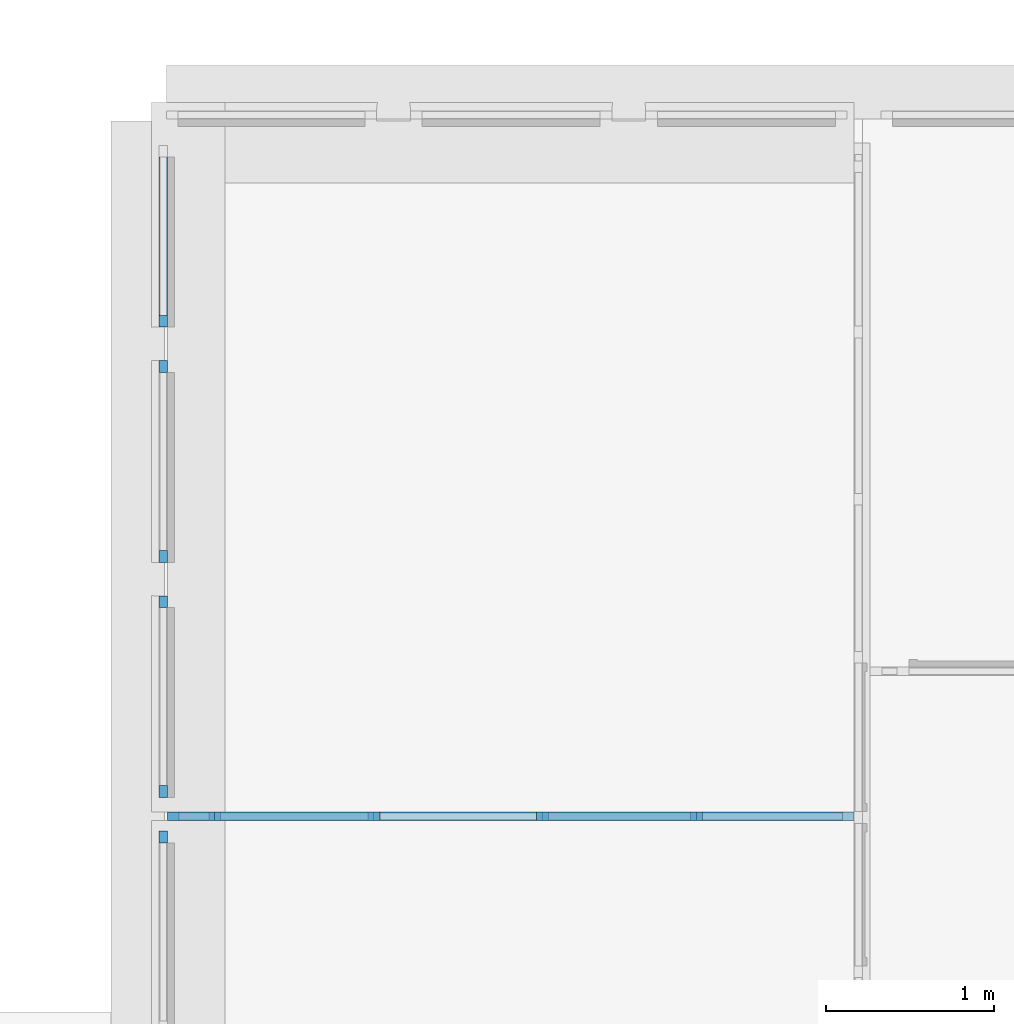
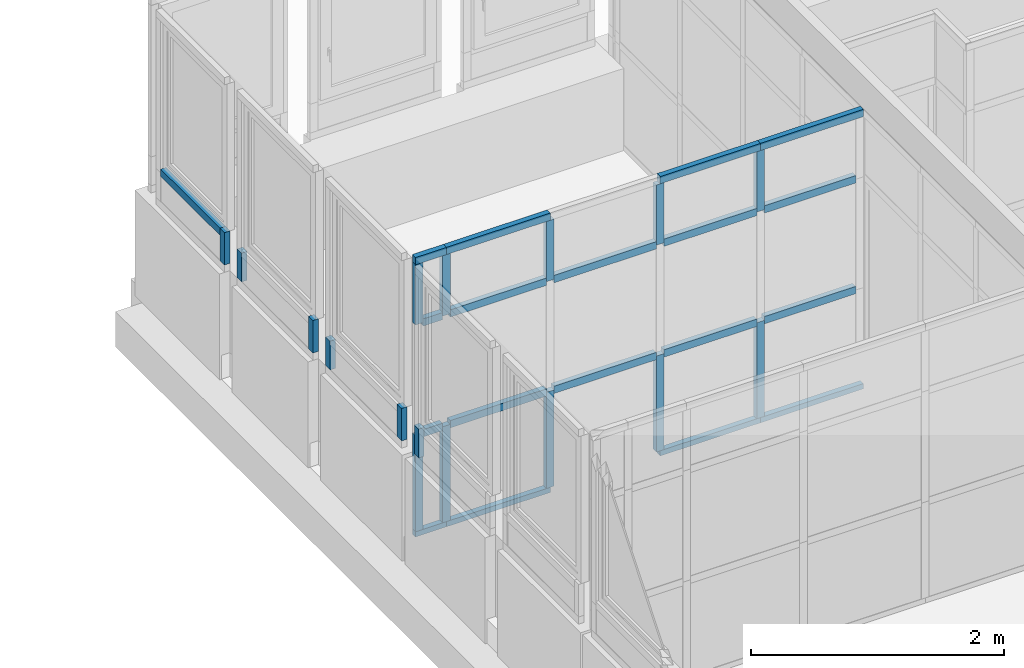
# One storey, part 20 of 97: 35 members, 5 elements without a shape of their own.
"""IFC4 building model written with IfcOpenShell, lengths in metres."""

from ifc_helpers import new_model, entity, si_unit, converted_unit, derived_unit, direction, frame, origin, place, context, subcontext, project, spatial, indexed_curve, outline, extrude, source, transform, mapped, material, type_object, type_shapes, element, aggregate, save


model = new_model("IFC4")

# Units and contexts
model_context = context("Model", 3, precision=1e-05, world=origin(), true_north=direction((6.12303176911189e-17, 1.0)))
body_context = subcontext(model_context, "Body", "Model", "MODEL_VIEW")
ifc_project = project(units=[si_unit("LENGTHUNIT", "METRE"), si_unit("AREAUNIT", "SQUARE_METRE"), si_unit("VOLUMEUNIT", "CUBIC_METRE"), converted_unit("PLANEANGLEUNIT", "DEGREE", entity("IfcRatioMeasure", 0.0174532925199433), si_unit("PLANEANGLEUNIT", "RADIAN"), dimensions=[0, 0, 0, 0, 0, 0, 0]), si_unit("MASSUNIT", "GRAM", prefix="KILO"), derived_unit("MASSDENSITYUNIT", [(si_unit("MASSUNIT", "GRAM", prefix="KILO"), 1), (si_unit("LENGTHUNIT", "METRE"), -3)]), derived_unit("MOMENTOFINERTIAUNIT", [(si_unit("LENGTHUNIT", "METRE"), 4)]), si_unit("TIMEUNIT", "SECOND"), si_unit("FREQUENCYUNIT", "HERTZ"), si_unit("THERMODYNAMICTEMPERATUREUNIT", "DEGREE_CELSIUS"), derived_unit("THERMALTRANSMITTANCEUNIT", [(si_unit("MASSUNIT", "GRAM", prefix="KILO"), 1), (si_unit("THERMODYNAMICTEMPERATUREUNIT", "KELVIN"), -1), (si_unit("TIMEUNIT", "SECOND"), -3)]), derived_unit("VOLUMETRICFLOWRATEUNIT", [(si_unit("LENGTHUNIT", "METRE"), 3), (si_unit("TIMEUNIT", "SECOND"), -1)]), si_unit("ELECTRICCURRENTUNIT", "AMPERE"), si_unit("ELECTRICVOLTAGEUNIT", "VOLT"), si_unit("POWERUNIT", "WATT"), si_unit("FORCEUNIT", "NEWTON", prefix="KILO"), si_unit("ILLUMINANCEUNIT", "LUX"), si_unit("LUMINOUSFLUXUNIT", "LUMEN"), si_unit("LUMINOUSINTENSITYUNIT", "CANDELA"), derived_unit("USERDEFINED", [(si_unit("MASSUNIT", "GRAM", prefix="KILO"), -1), (si_unit("LENGTHUNIT", "METRE"), -2), (si_unit("TIMEUNIT", "SECOND"), 3), (si_unit("LUMINOUSFLUXUNIT", "LUMEN"), 1)]), derived_unit("LINEARVELOCITYUNIT", [(si_unit("LENGTHUNIT", "METRE"), 1), (si_unit("TIMEUNIT", "SECOND"), -1)]), si_unit("PRESSUREUNIT", "PASCAL"), derived_unit("USERDEFINED", [(si_unit("LENGTHUNIT", "METRE"), -2), (si_unit("MASSUNIT", "GRAM", prefix="KILO"), 1), (si_unit("TIMEUNIT", "SECOND"), -2)]), derived_unit("LINEARFORCEUNIT", [(si_unit("MASSUNIT", "GRAM", prefix="KILO"), 1), (si_unit("LENGTHUNIT", "METRE"), 1), (si_unit("TIMEUNIT", "SECOND"), -2), (si_unit("LENGTHUNIT", "METRE"), -1)]), derived_unit("PLANARFORCEUNIT", [(si_unit("MASSUNIT", "GRAM", prefix="KILO"), 1), (si_unit("LENGTHUNIT", "METRE"), 1), (si_unit("TIMEUNIT", "SECOND"), -2), (si_unit("LENGTHUNIT", "METRE"), -2)])], contexts=[model_context])

# Site, building, storey
site_placement = place(None, origin())
site = spatial("IfcSite", under=ifc_project, at=site_placement, Name="Default", CompositionType="ELEMENT")
building_placement = place(site_placement, origin())
building = spatial("IfcBuilding", under=site, at=building_placement, Name="HOTEL CONSULAIRE BOULOGNE SUR MER", CompositionType="ELEMENT")
storey_placement = place(building_placement, frame((0.0, 0.0, 3.62152697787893)))
storey = spatial("IfcBuildingStorey", under=building, at=storey_placement, Name="Niveau 1", CompositionType="ELEMENT", Elevation=3.62152697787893)

# Curtain wall, member
curtain_wall_type = type_object("IfcCurtainWallType", Name="Mur-rideau:Simple panneau", PredefinedType="NOTDEFINED")
curtain_wall_1_placement = place(storey_placement, frame((0.0, 0.0, -3.62152697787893)))
curtain_wall_1 = element("IfcCurtainWall", 1, at=curtain_wall_1_placement, inside=storey, type_object=curtain_wall_type, Name="Mur-rideau:Simple panneau", ObjectType="Mur-rideau:Simple panneau", PredefinedType="NOTDEFINED")
ifc_material_1 = material(Name="PVC - Blanc", Category="Plastique")
member_type_1 = type_object("IfcMemberType", Name="Meneau rectangulaire:50 x 35", PredefinedType="MULLION", material=ifc_material_1)
shared_shape_1 = source(origin(), body_context, "Body", "SweptSolid", [
    extrude(outline(indexed_curve([(-0.025, -0.035), (0.025, -0.035), (0.025, 0.035), (-0.025, 0.035), (-0.025, -0.035)], self_intersect=False)), frame((-0.035, -0.025, -0.278), z_axis=(0.0, 0.0, 1.0), x_axis=(0.0, -1.0, 0.0)), (0.0, 0.0, 1.0), 0.278),
])
type_shapes(member_type_1, [shared_shape_1])
member_1_placement = place(storey_placement, frame((-13.7870998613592, -14.3114499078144, 0.861612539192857), z_axis=(0.0, 0.0, -1.0), x_axis=(0.0, 1.0, 0.0)))
member_1 = element("IfcMember", 2, at=member_1_placement, type_object=member_type_1, material=ifc_material_1, Name="Meneau rectangulaire:50 x 35", ObjectType="Meneau rectangulaire:50 x 35", PredefinedType="MULLION", context=body_context, shape_type="MappedRepresentation", body=[
    mapped(shared_shape_1, transform((0.0, 0.0, 0.0), scale=1.0)),
])
aggregate(curtain_wall_1, [member_1])

curtain_wall_2_placement = place(storey_placement, frame((0.0, 0.0, -3.62152697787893)))
curtain_wall_2 = element("IfcCurtainWall", 3, at=curtain_wall_2_placement, inside=storey, type_object=curtain_wall_type, Name="Mur-rideau:Simple panneau", ObjectType="Mur-rideau:Simple panneau", PredefinedType="NOTDEFINED")
member_2_placement = place(storey_placement, frame((-13.7870998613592, -12.9114499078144, 0.861612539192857), z_axis=(0.0, 0.0, -1.0), x_axis=(0.0, 1.0, 0.0)))
member_2 = element("IfcMember", 4, at=member_2_placement, type_object=member_type_1, material=ifc_material_1, Name="Meneau rectangulaire:50 x 35", ObjectType="Meneau rectangulaire:50 x 35", PredefinedType="MULLION", context=body_context, shape_type="MappedRepresentation", body=[
    mapped(shared_shape_1, transform((0.0, 0.0, 0.0), scale=1.0)),
])

curtain_wall_3_placement = place(storey_placement, frame((0.0, 0.0, -3.62152697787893)))
curtain_wall_3 = element("IfcCurtainWall", 5, at=curtain_wall_3_placement, inside=storey, type_object=curtain_wall_type, Name="Mur-rideau:Simple panneau", ObjectType="Mur-rideau:Simple panneau", PredefinedType="NOTDEFINED")
member_3_placement = place(storey_placement, frame((-13.7870998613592, -11.5114499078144, 0.861612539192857), z_axis=(0.0, 0.0, -1.0), x_axis=(0.0, 1.0, 0.0)))
member_3 = element("IfcMember", 6, at=member_3_placement, type_object=member_type_1, material=ifc_material_1, Name="Meneau rectangulaire:50 x 35", ObjectType="Meneau rectangulaire:50 x 35", PredefinedType="MULLION", context=body_context, shape_type="MappedRepresentation", body=[
    mapped(shared_shape_1, transform((0.0, 0.0, 0.0), scale=1.0)),
])

# Member
member_type_2 = type_object("IfcMemberType", Name="Meneau rectangulaire:50 x 35", PredefinedType="MULLION", material=ifc_material_1)
shared_shape_2 = source(origin(), body_context, "Body", "SweptSolid", [
    extrude(outline(indexed_curve([(-0.025, -0.035), (0.025, -0.035), (0.025, 0.035), (-0.025, 0.035), (-0.025, -0.035)], self_intersect=False)), frame((-0.035, -0.025, -0.313), z_axis=(0.0, 0.0, 1.0), x_axis=(0.0, -1.0, 0.0)), (0.0, 0.0, 1.0), 0.313),
])
type_shapes(member_type_2, [shared_shape_2])
member_4_placement = place(storey_placement, frame((-13.7870998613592, -14.1114499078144, 1.17461253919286), z_axis=(0.0, 0.0, 1.0), x_axis=(0.0, -1.0, 0.0)))
member_4 = element("IfcMember", 7, at=member_4_placement, type_object=member_type_2, material=ifc_material_1, Name="Meneau rectangulaire:50 x 35", ObjectType="Meneau rectangulaire:50 x 35", PredefinedType="MULLION", context=body_context, shape_type="MappedRepresentation", body=[
    mapped(shared_shape_2, transform((0.0, 0.0, 0.0), scale=1.0)),
])

aggregate(curtain_wall_2, [member_2, member_4])

member_5_placement = place(storey_placement, frame((-13.7870998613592, -12.7114499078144, 1.17461253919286), z_axis=(0.0, 0.0, 1.0), x_axis=(0.0, -1.0, 0.0)))
member_5 = element("IfcMember", 8, at=member_5_placement, type_object=member_type_2, material=ifc_material_1, Name="Meneau rectangulaire:50 x 35", ObjectType="Meneau rectangulaire:50 x 35", PredefinedType="MULLION", context=body_context, shape_type="MappedRepresentation", body=[
    mapped(shared_shape_2, transform((0.0, 0.0, 0.0), scale=1.0)),
])

aggregate(curtain_wall_3, [member_3, member_5])

# Curtain wall, members
curtain_wall_4_placement = place(storey_placement, frame((0.0, 0.0, -3.62152697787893)))
curtain_wall_4 = element("IfcCurtainWall", 9, at=curtain_wall_4_placement, inside=storey, type_object=curtain_wall_type, Name="Mur-rideau:Simple panneau", ObjectType="Mur-rideau:Simple panneau", PredefinedType="NOTDEFINED")
member_6_placement = place(storey_placement, frame((-13.7870998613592, -11.3114499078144, 1.17461253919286), z_axis=(0.0, 0.0, 1.0), x_axis=(0.0, -1.0, 0.0)))
member_6 = element("IfcMember", 10, at=member_6_placement, type_object=member_type_2, material=ifc_material_1, Name="Meneau rectangulaire:50 x 35", ObjectType="Meneau rectangulaire:50 x 35", PredefinedType="MULLION", context=body_context, shape_type="MappedRepresentation", body=[
    mapped(shared_shape_2, transform((0.0, 0.0, 0.0), scale=1.0)),
])
member_type_3 = type_object("IfcMemberType", Name="Meneau rectangulaire:50 x 35", PredefinedType="MULLION", material=ifc_material_1)
shared_shape_3 = source(origin(), body_context, "Body", "SweptSolid", [
    extrude(outline(indexed_curve([(-0.025, -0.035), (0.025, -0.035), (0.025, 0.035), (-0.025, 0.035), (-0.025, -0.035)], self_intersect=False)), frame((0.0, -0.025, -0.941125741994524), z_axis=(0.0, 0.0, 1.0), x_axis=(0.0, -1.0, 0.0)), (0.0, 0.0, 1.0), 0.941125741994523),
])
type_shapes(member_type_3, [shared_shape_3])
member_7_placement = place(storey_placement, frame((-13.7870998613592, -10.3003241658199, 1.13961253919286), z_axis=(0.0, 1.0, 0.0), x_axis=(0.0, 0.0, 1.0)))
member_7 = element("IfcMember", 11, at=member_7_placement, type_object=member_type_3, material=ifc_material_1, Name="Meneau rectangulaire:50 x 35", ObjectType="Meneau rectangulaire:50 x 35", PredefinedType="MULLION", context=body_context, shape_type="MappedRepresentation", body=[
    mapped(shared_shape_3, transform((0.0, 0.0, 0.0), scale=1.0)),
])
aggregate(curtain_wall_4, [member_7, member_6])

curtain_wall_5_placement = place(storey_placement, frame((0.0, 0.0, -3.62152697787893)))
curtain_wall_5 = element("IfcCurtainWall", 12, at=curtain_wall_5_placement, inside=storey, type_object=curtain_wall_type, Name="Mur-rideau:Simple panneau", ObjectType="Mur-rideau:Simple panneau", PredefinedType="NOTDEFINED")
ifc_material_2 = material(Name="PVC, souple", Category="Plastique")
member_type_4 = type_object("IfcMemberType", Name="Meneau rectangulaire:50 x 35 pvc gris", PredefinedType="MULLION", material=ifc_material_2)
shared_shape_4 = source(origin(), body_context, "Body", "SweptSolid", [
    extrude(outline(indexed_curve([(-0.025, -0.035), (0.025, -0.035), (0.025, 0.035), (-0.025, 0.035), (-0.025, -0.035)], self_intersect=False)), frame((-0.035, -0.025, -0.581), z_axis=(0.0, 0.0, 1.0), x_axis=(0.0, -1.0, 0.0)), (0.0, 0.0, 1.0), 0.581),
])
type_shapes(member_type_4, [shared_shape_4])
member_8_placement = place(storey_placement, frame((-13.7881025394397, -14.2474499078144, 2.62696046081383), z_axis=(0.0, 0.0, 1.0), x_axis=(-1.0, 0.0, 0.0)))
member_8 = element("IfcMember", 13, at=member_8_placement, type_object=member_type_4, material=ifc_material_2, Name="Meneau rectangulaire:50 x 35 pvc gris", ObjectType="Meneau rectangulaire:50 x 35 pvc gris", PredefinedType="MULLION", context=body_context, shape_type="MappedRepresentation", body=[
    mapped(shared_shape_4, transform((0.0, 0.0, 0.0), scale=1.0)),
])
member_type_5 = type_object("IfcMemberType", Name="Meneau rectangulaire:50 x 35 pvc gris", PredefinedType="MULLION", material=ifc_material_2)
shared_shape_5 = source(origin(), body_context, "Body", "SweptSolid", [
    extrude(outline(indexed_curve([(-0.025, -0.035), (0.025, -0.035), (0.025, 0.035), (-0.025, 0.035), (-0.025, -0.035)], self_intersect=False)), frame((0.0, -0.025, -0.581), z_axis=(0.0, 0.0, 1.0), x_axis=(0.0, -1.0, 0.0)), (0.0, 0.0, 1.0), 0.581),
])
type_shapes(member_type_5, [shared_shape_5])
member_9_placement = place(storey_placement, frame((-13.5061025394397, -14.2474499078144, 2.04596046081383), z_axis=(0.0, 0.0, -1.0), x_axis=(1.0, 0.0, 0.0)))
member_9 = element("IfcMember", 14, at=member_9_placement, type_object=member_type_5, material=ifc_material_2, Name="Meneau rectangulaire:50 x 35 pvc gris", ObjectType="Meneau rectangulaire:50 x 35 pvc gris", PredefinedType="MULLION", context=body_context, shape_type="MappedRepresentation", body=[
    mapped(shared_shape_5, transform((0.0, 0.0, 0.0), scale=1.0)),
])
member_10_placement = place(storey_placement, frame((-12.5580998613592, -14.2474499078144, 2.04596046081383), z_axis=(0.0, 0.0, -1.0), x_axis=(1.0, 0.0, 0.0)))
member_10 = element("IfcMember", 15, at=member_10_placement, type_object=member_type_5, material=ifc_material_2, Name="Meneau rectangulaire:50 x 35 pvc gris", ObjectType="Meneau rectangulaire:50 x 35 pvc gris", PredefinedType="MULLION", context=body_context, shape_type="MappedRepresentation", body=[
    mapped(shared_shape_5, transform((0.0, 0.0, 0.0), scale=1.0)),
])
member_11_placement = place(storey_placement, frame((-11.5550998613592, -14.2474499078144, 2.04596046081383), z_axis=(0.0, 0.0, -1.0), x_axis=(1.0, 0.0, 0.0)))
member_11 = element("IfcMember", 16, at=member_11_placement, type_object=member_type_5, material=ifc_material_2, Name="Meneau rectangulaire:50 x 35 pvc gris", ObjectType="Meneau rectangulaire:50 x 35 pvc gris", PredefinedType="MULLION", context=body_context, shape_type="MappedRepresentation", body=[
    mapped(shared_shape_5, transform((0.0, 0.0, 0.0), scale=1.0)),
])
member_12_placement = place(storey_placement, frame((-10.6380998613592, -14.2474499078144, 2.04596046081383), z_axis=(0.0, 0.0, -1.0), x_axis=(1.0, 0.0, 0.0)))
member_12 = element("IfcMember", 17, at=member_12_placement, type_object=member_type_5, material=ifc_material_2, Name="Meneau rectangulaire:50 x 35 pvc gris", ObjectType="Meneau rectangulaire:50 x 35 pvc gris", PredefinedType="MULLION", context=body_context, shape_type="MappedRepresentation", body=[
    mapped(shared_shape_5, transform((0.0, 0.0, 0.0), scale=1.0)),
])
member_type_6 = type_object("IfcMemberType", Name="Meneau rectangulaire:50 x 35 pvc gris", PredefinedType="MULLION", material=ifc_material_2)
shared_shape_6 = source(origin(), body_context, "Body", "SweptSolid", [
    extrude(outline(indexed_curve([(-0.025, -0.035), (0.025, -0.035), (0.025, 0.035), (-0.025, 0.035), (-0.025, -0.035)], self_intersect=False)), frame((0.0, -0.025, -0.926960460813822), z_axis=(0.0, 0.0, 1.0), x_axis=(0.0, -1.0, 0.0)), (0.0, 0.0, 1.0), 0.926960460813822),
])
type_shapes(member_type_6, [shared_shape_6])
member_13_placement = place(storey_placement, frame((-13.5061025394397, -14.2474499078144, 0.050000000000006), z_axis=(0.0, 0.0, -1.0), x_axis=(1.0, 0.0, 0.0)))
member_13 = element("IfcMember", 18, at=member_13_placement, type_object=member_type_6, material=ifc_material_2, Name="Meneau rectangulaire:50 x 35 pvc gris", ObjectType="Meneau rectangulaire:50 x 35 pvc gris", PredefinedType="MULLION", context=body_context, shape_type="MappedRepresentation", body=[
    mapped(shared_shape_6, transform((0.0, 0.0, 0.0), scale=1.0)),
])
member_14_placement = place(storey_placement, frame((-12.5580998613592, -14.2474499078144, 0.050000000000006), z_axis=(0.0, 0.0, -1.0), x_axis=(1.0, 0.0, 0.0)))
member_14 = element("IfcMember", 19, at=member_14_placement, type_object=member_type_6, material=ifc_material_2, Name="Meneau rectangulaire:50 x 35 pvc gris", ObjectType="Meneau rectangulaire:50 x 35 pvc gris", PredefinedType="MULLION", context=body_context, shape_type="MappedRepresentation", body=[
    mapped(shared_shape_6, transform((0.0, 0.0, 0.0), scale=1.0)),
])
member_15_placement = place(storey_placement, frame((-11.5550998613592, -14.2474499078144, 0.050000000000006), z_axis=(0.0, 0.0, -1.0), x_axis=(1.0, 0.0, 0.0)))
member_15 = element("IfcMember", 20, at=member_15_placement, type_object=member_type_6, material=ifc_material_2, Name="Meneau rectangulaire:50 x 35 pvc gris", ObjectType="Meneau rectangulaire:50 x 35 pvc gris", PredefinedType="MULLION", context=body_context, shape_type="MappedRepresentation", body=[
    mapped(shared_shape_6, transform((0.0, 0.0, 0.0), scale=1.0)),
])
member_16_placement = place(storey_placement, frame((-10.6380998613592, -14.2474499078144, 0.050000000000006), z_axis=(0.0, 0.0, -1.0), x_axis=(1.0, 0.0, 0.0)))
member_16 = element("IfcMember", 21, at=member_16_placement, type_object=member_type_6, material=ifc_material_2, Name="Meneau rectangulaire:50 x 35 pvc gris", ObjectType="Meneau rectangulaire:50 x 35 pvc gris", PredefinedType="MULLION", context=body_context, shape_type="MappedRepresentation", body=[
    mapped(shared_shape_6, transform((0.0, 0.0, 0.0), scale=1.0)),
])
member_type_7 = type_object("IfcMemberType", Name="Meneau rectangulaire:50 x 35 pvc gris", PredefinedType="MULLION", material=ifc_material_2)
shared_shape_7 = source(origin(), body_context, "Body", "SweptSolid", [
    extrude(outline(indexed_curve([(-0.025, -0.035), (0.025, -0.035), (0.025, 0.035), (-0.025, 0.035), (-0.025, -0.035)], self_intersect=False)), frame((0.0, -0.025, -0.846999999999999), z_axis=(0.0, 0.0, 1.0), x_axis=(0.0, -1.0, 0.0)), (0.0, 0.0, 1.0), 0.847),
])
type_shapes(member_type_7, [shared_shape_7])
member_17_placement = place(storey_placement, frame((-10.6730998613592, -14.2474499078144, 0.977000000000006), z_axis=(1.0, 0.0, 0.0), x_axis=(0.0, 0.0, 1.0)))
member_17 = element("IfcMember", 22, at=member_17_placement, type_object=member_type_7, material=ifc_material_2, Name="Meneau rectangulaire:50 x 35 pvc gris", ObjectType="Meneau rectangulaire:50 x 35 pvc gris", PredefinedType="MULLION", context=body_context, shape_type="MappedRepresentation", body=[
    mapped(shared_shape_7, transform((0.0, 0.0, 0.0), scale=1.0)),
])
member_18_placement = place(storey_placement, frame((-10.6730998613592, -14.2474499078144, 2.04596046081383), z_axis=(1.0, 0.0, 0.0), x_axis=(0.0, 0.0, 1.0)))
member_18 = element("IfcMember", 23, at=member_18_placement, type_object=member_type_7, material=ifc_material_2, Name="Meneau rectangulaire:50 x 35 pvc gris", ObjectType="Meneau rectangulaire:50 x 35 pvc gris", PredefinedType="MULLION", context=body_context, shape_type="MappedRepresentation", body=[
    mapped(shared_shape_7, transform((0.0, 0.0, 0.0), scale=1.0)),
])
member_type_8 = type_object("IfcMemberType", Name="Meneau rectangulaire:50 x 35 pvc gris", PredefinedType="MULLION", material=ifc_material_2)
shared_shape_8 = source(origin(), body_context, "Body", "SweptSolid", [
    extrude(outline(indexed_curve([(-0.025, -0.035), (0.025, -0.035), (0.025, 0.035), (-0.025, 0.035), (-0.025, -0.035)], self_intersect=False)), frame((-0.035, -0.025, -0.916999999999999), z_axis=(0.0, 0.0, 1.0), x_axis=(0.0, -1.0, 0.0)), (0.0, 0.0, 1.0), 0.916999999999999),
])
type_shapes(member_type_8, [shared_shape_8])
member_19_placement = place(storey_placement, frame((-10.6380998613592, -14.2474499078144, 2.69696046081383), z_axis=(1.0, 0.0, 0.0), x_axis=(0.0, 0.0, 1.0)))
member_19 = element("IfcMember", 24, at=member_19_placement, type_object=member_type_8, material=ifc_material_2, Name="Meneau rectangulaire:50 x 35 pvc gris", ObjectType="Meneau rectangulaire:50 x 35 pvc gris", PredefinedType="MULLION", context=body_context, shape_type="MappedRepresentation", body=[
    mapped(shared_shape_8, transform((0.0, 0.0, 0.0), scale=1.0)),
])
member_type_9 = type_object("IfcMemberType", Name="Meneau rectangulaire:50 x 35 pvc gris", PredefinedType="MULLION", material=ifc_material_2)
shared_shape_9 = source(origin(), body_context, "Body", "SweptSolid", [
    extrude(outline(indexed_curve([(-0.025, -0.035), (0.025, -0.035), (0.025, 0.035), (-0.025, 0.035), (-0.025, -0.035)], self_intersect=False)), frame((-0.035, -0.025, -0.927), z_axis=(0.0, 0.0, 1.0), x_axis=(0.0, -1.0, 0.0)), (0.0, 0.0, 1.0), 0.927),
])
type_shapes(member_type_9, [shared_shape_9])
member_20_placement = place(storey_placement, frame((-13.7881025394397, -14.2474499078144, 0.977000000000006), z_axis=(0.0, 0.0, 1.0), x_axis=(-1.0, 0.0, 0.0)))
member_20 = element("IfcMember", 25, at=member_20_placement, type_object=member_type_9, material=ifc_material_2, Name="Meneau rectangulaire:50 x 35 pvc gris", ObjectType="Meneau rectangulaire:50 x 35 pvc gris", PredefinedType="MULLION", context=body_context, shape_type="MappedRepresentation", body=[
    mapped(shared_shape_9, transform((0.0, 0.0, 0.0), scale=1.0)),
])
member_type_10 = type_object("IfcMemberType", Name="Meneau rectangulaire:50 x 25mm pvc gris", PredefinedType="MULLION", material=ifc_material_2)
shared_shape_10 = source(origin(), body_context, "Body", "SweptSolid", [
    extrude(outline(indexed_curve([(-0.025, -0.025), (0.025, -0.025), (0.025, 0.025), (-0.025, 0.025), (-0.025, -0.025)], self_intersect=False)), frame((-0.025, -0.025, -0.948002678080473), z_axis=(0.0, 0.0, 1.0), x_axis=(0.0, -1.0, 0.0)), (0.0, 0.0, 1.0), 0.948002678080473),
])
type_shapes(member_type_10, [shared_shape_10])
member_21_placement = place(storey_placement, frame((-13.5061025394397, -14.2474499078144, 0.0), z_axis=(-1.0, 0.0, 0.0), x_axis=(0.0, 0.0, -1.0)))
member_21 = element("IfcMember", 26, at=member_21_placement, type_object=member_type_10, material=ifc_material_2, Name="Meneau rectangulaire:50 x 25mm pvc gris", ObjectType="Meneau rectangulaire:50 x 25mm pvc gris", PredefinedType="MULLION", context=body_context, shape_type="MappedRepresentation", body=[
    mapped(shared_shape_10, transform((0.0, 0.0, 0.0), scale=1.0)),
])
member_type_11 = type_object("IfcMemberType", Name="Meneau rectangulaire:50 x 25mm pvc gris", PredefinedType="MULLION", material=ifc_material_2)
shared_shape_11 = source(origin(), body_context, "Body", "SweptSolid", [
    extrude(outline(indexed_curve([(-0.025, -0.025), (0.025, -0.025), (0.025, 0.025), (-0.025, 0.025), (-0.025, -0.025)], self_intersect=False)), frame((-0.025, -0.025, -0.938475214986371), z_axis=(0.0, 0.0, 1.0), x_axis=(0.0, -1.0, 0.0)), (0.0, 0.0, 1.0), 0.93847521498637),
])
type_shapes(member_type_11, [shared_shape_11])
member_22_placement = place(storey_placement, frame((-10.6380998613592, -14.2474499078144, 0.0), z_axis=(-1.0, 0.0, 0.0), x_axis=(0.0, 0.0, -1.0)))
member_22 = element("IfcMember", 27, at=member_22_placement, type_object=member_type_11, material=ifc_material_2, Name="Meneau rectangulaire:50 x 25mm pvc gris", ObjectType="Meneau rectangulaire:50 x 25mm pvc gris", PredefinedType="MULLION", context=body_context, shape_type="MappedRepresentation", body=[
    mapped(shared_shape_11, transform((0.0, 0.0, 0.0), scale=1.0)),
])
member_type_12 = type_object("IfcMemberType", Name="Meneau rectangulaire:50 x 25mm pvc gris", PredefinedType="MULLION", material=ifc_material_2)
shared_shape_12 = source(origin(), body_context, "Body", "SweptSolid", [
    extrude(outline(indexed_curve([(-0.025, -0.025), (0.025, -0.025), (0.025, 0.025), (-0.025, 0.025), (-0.025, -0.025)], self_intersect=False)), frame((-0.025, -0.025, -0.916999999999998), z_axis=(0.0, 0.0, 1.0), x_axis=(0.0, -1.0, 0.0)), (0.0, 0.0, 1.0), 0.916999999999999),
])
type_shapes(member_type_12, [shared_shape_12])
member_23_placement = place(storey_placement, frame((-11.5550998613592, -14.2474499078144, 0.0), z_axis=(-1.0, 0.0, 0.0), x_axis=(0.0, 0.0, -1.0)))
member_23 = element("IfcMember", 28, at=member_23_placement, type_object=member_type_12, material=ifc_material_2, Name="Meneau rectangulaire:50 x 25mm pvc gris", ObjectType="Meneau rectangulaire:50 x 25mm pvc gris", PredefinedType="MULLION", context=body_context, shape_type="MappedRepresentation", body=[
    mapped(shared_shape_12, transform((0.0, 0.0, 0.0), scale=1.0)),
])
member_type_13 = type_object("IfcMemberType", Name="Meneau rectangulaire:50 x 25mm pvc gris", PredefinedType="MULLION", material=ifc_material_2)
shared_shape_13 = source(origin(), body_context, "Body", "SweptSolid", [
    extrude(outline(indexed_curve([(-0.025, -0.025), (0.025, -0.025), (0.025, 0.025), (-0.025, 0.025), (-0.025, -0.025)], self_intersect=False)), frame((-0.025, -0.025, -0.282000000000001), z_axis=(0.0, 0.0, 1.0), x_axis=(0.0, -1.0, 0.0)), (0.0, 0.0, 1.0), 0.282000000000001),
])
type_shapes(member_type_13, [shared_shape_13])
member_24_placement = place(storey_placement, frame((-13.7881025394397, -14.2474499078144, 0.0), z_axis=(-1.0, 0.0, 0.0), x_axis=(0.0, 0.0, -1.0)))
member_24 = element("IfcMember", 29, at=member_24_placement, type_object=member_type_13, material=ifc_material_2, Name="Meneau rectangulaire:50 x 25mm pvc gris", ObjectType="Meneau rectangulaire:50 x 25mm pvc gris", PredefinedType="MULLION", context=body_context, shape_type="MappedRepresentation", body=[
    mapped(shared_shape_13, transform((0.0, 0.0, 0.0), scale=1.0)),
])
member_type_14 = type_object("IfcMemberType", Name="Meneau rectangulaire:50 x 35 pvc gris", PredefinedType="MULLION", material=ifc_material_2)
shared_shape_14 = source(origin(), body_context, "Body", "SweptSolid", [
    extrude(outline(indexed_curve([(-0.025, -0.035), (0.025, -0.035), (0.025, 0.035), (-0.025, 0.035), (-0.025, -0.035)], self_intersect=False)), frame((0.0, -0.025, -0.878002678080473), z_axis=(0.0, 0.0, 1.0), x_axis=(0.0, -1.0, 0.0)), (0.0, 0.0, 1.0), 0.878002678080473),
])
type_shapes(member_type_14, [shared_shape_14])
member_25_placement = place(storey_placement, frame((-12.5930998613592, -14.2474499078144, 0.977000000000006), z_axis=(1.0, 0.0, 0.0), x_axis=(0.0, 0.0, 1.0)))
member_25 = element("IfcMember", 30, at=member_25_placement, type_object=member_type_14, material=ifc_material_2, Name="Meneau rectangulaire:50 x 35 pvc gris", ObjectType="Meneau rectangulaire:50 x 35 pvc gris", PredefinedType="MULLION", context=body_context, shape_type="MappedRepresentation", body=[
    mapped(shared_shape_14, transform((0.0, 0.0, 0.0), scale=1.0)),
])
member_26_placement = place(storey_placement, frame((-12.5930998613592, -14.2474499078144, 2.04596046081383), z_axis=(1.0, 0.0, 0.0), x_axis=(0.0, 0.0, 1.0)))
member_26 = element("IfcMember", 31, at=member_26_placement, type_object=member_type_14, material=ifc_material_2, Name="Meneau rectangulaire:50 x 35 pvc gris", ObjectType="Meneau rectangulaire:50 x 35 pvc gris", PredefinedType="MULLION", context=body_context, shape_type="MappedRepresentation", body=[
    mapped(shared_shape_14, transform((0.0, 0.0, 0.0), scale=1.0)),
])
member_type_15 = type_object("IfcMemberType", Name="Meneau rectangulaire:50 x 35 pvc gris", PredefinedType="MULLION", material=ifc_material_2)
shared_shape_15 = source(origin(), body_context, "Body", "SweptSolid", [
    extrude(outline(indexed_curve([(-0.025, -0.035), (0.025, -0.035), (0.025, 0.035), (-0.025, 0.035), (-0.025, -0.035)], self_intersect=False)), frame((0.0, -0.025, -0.833475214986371), z_axis=(0.0, 0.0, 1.0), x_axis=(0.0, -1.0, 0.0)), (0.0, 0.0, 1.0), 0.83347521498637),
])
type_shapes(member_type_15, [shared_shape_15])
member_27_placement = place(storey_placement, frame((-9.76962464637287, -14.2474499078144, 0.977000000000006), z_axis=(1.0, 0.0, 0.0), x_axis=(0.0, 0.0, 1.0)))
member_27 = element("IfcMember", 32, at=member_27_placement, type_object=member_type_15, material=ifc_material_2, Name="Meneau rectangulaire:50 x 35 pvc gris", ObjectType="Meneau rectangulaire:50 x 35 pvc gris", PredefinedType="MULLION", context=body_context, shape_type="MappedRepresentation", body=[
    mapped(shared_shape_15, transform((0.0, 0.0, 0.0), scale=1.0)),
])
member_28_placement = place(storey_placement, frame((-9.76962464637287, -14.2474499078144, 2.04596046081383), z_axis=(1.0, 0.0, 0.0), x_axis=(0.0, 0.0, 1.0)))
member_28 = element("IfcMember", 33, at=member_28_placement, type_object=member_type_15, material=ifc_material_2, Name="Meneau rectangulaire:50 x 35 pvc gris", ObjectType="Meneau rectangulaire:50 x 35 pvc gris", PredefinedType="MULLION", context=body_context, shape_type="MappedRepresentation", body=[
    mapped(shared_shape_15, transform((0.0, 0.0, 0.0), scale=1.0)),
])
member_type_16 = type_object("IfcMemberType", Name="Meneau rectangulaire:50 x 35 pvc gris", PredefinedType="MULLION", material=ifc_material_2)
shared_shape_16 = source(origin(), body_context, "Body", "SweptSolid", [
    extrude(outline(indexed_curve([(-0.025, -0.035), (0.025, -0.035), (0.025, 0.035), (-0.025, 0.035), (-0.025, -0.035)], self_intersect=False)), frame((0.0, -0.025, -0.932999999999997), z_axis=(0.0, 0.0, 1.0), x_axis=(0.0, -1.0, 0.0)), (0.0, 0.0, 1.0), 0.932999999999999),
])
type_shapes(member_type_16, [shared_shape_16])
member_29_placement = place(storey_placement, frame((-11.5900998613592, -14.2474499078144, 0.977000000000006), z_axis=(1.0, 0.0, 0.0), x_axis=(0.0, 0.0, 1.0)))
member_29 = element("IfcMember", 34, at=member_29_placement, type_object=member_type_16, material=ifc_material_2, Name="Meneau rectangulaire:50 x 35 pvc gris", ObjectType="Meneau rectangulaire:50 x 35 pvc gris", PredefinedType="MULLION", context=body_context, shape_type="MappedRepresentation", body=[
    mapped(shared_shape_16, transform((0.0, 0.0, 0.0), scale=1.0)),
])
member_30_placement = place(storey_placement, frame((-11.5900998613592, -14.2474499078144, 2.04596046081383), z_axis=(1.0, 0.0, 0.0), x_axis=(0.0, 0.0, 1.0)))
member_30 = element("IfcMember", 35, at=member_30_placement, type_object=member_type_16, material=ifc_material_2, Name="Meneau rectangulaire:50 x 35 pvc gris", ObjectType="Meneau rectangulaire:50 x 35 pvc gris", PredefinedType="MULLION", context=body_context, shape_type="MappedRepresentation", body=[
    mapped(shared_shape_16, transform((0.0, 0.0, 0.0), scale=1.0)),
])
member_type_17 = type_object("IfcMemberType", Name="Meneau rectangulaire:50 x 35 pvc gris", PredefinedType="MULLION", material=ifc_material_2)
shared_shape_17 = source(origin(), body_context, "Body", "SweptSolid", [
    extrude(outline(indexed_curve([(-0.025, -0.035), (0.025, -0.035), (0.025, 0.035), (-0.025, 0.035), (-0.025, -0.035)], self_intersect=False)), frame((0.0, -0.025, -0.177), z_axis=(0.0, 0.0, 1.0), x_axis=(0.0, -1.0, 0.0)), (0.0, 0.0, 1.0), 0.177000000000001),
])
type_shapes(member_type_17, [shared_shape_17])
member_31_placement = place(storey_placement, frame((-13.5411025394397, -14.2474499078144, 0.977000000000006), z_axis=(1.0, 0.0, 0.0), x_axis=(0.0, 0.0, 1.0)))
member_31 = element("IfcMember", 36, at=member_31_placement, type_object=member_type_17, material=ifc_material_2, Name="Meneau rectangulaire:50 x 35 pvc gris", ObjectType="Meneau rectangulaire:50 x 35 pvc gris", PredefinedType="MULLION", context=body_context, shape_type="MappedRepresentation", body=[
    mapped(shared_shape_17, transform((0.0, 0.0, 0.0), scale=1.0)),
])
member_32_placement = place(storey_placement, frame((-13.5411025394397, -14.2474499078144, 2.04596046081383), z_axis=(1.0, 0.0, 0.0), x_axis=(0.0, 0.0, 1.0)))
member_32 = element("IfcMember", 37, at=member_32_placement, type_object=member_type_17, material=ifc_material_2, Name="Meneau rectangulaire:50 x 35 pvc gris", ObjectType="Meneau rectangulaire:50 x 35 pvc gris", PredefinedType="MULLION", context=body_context, shape_type="MappedRepresentation", body=[
    mapped(shared_shape_17, transform((0.0, 0.0, 0.0), scale=1.0)),
])
member_type_18 = type_object("IfcMemberType", Name="Meneau rectangulaire:50 x 35 pvc gris", PredefinedType="MULLION", material=ifc_material_2)
shared_shape_18 = source(origin(), body_context, "Body", "SweptSolid", [
    extrude(outline(indexed_curve([(-0.025, -0.035), (0.025, -0.035), (0.025, 0.035), (-0.025, 0.035), (-0.025, -0.035)], self_intersect=False)), frame((-0.035, -0.025, -0.282000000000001), z_axis=(0.0, 0.0, 1.0), x_axis=(0.0, -1.0, 0.0)), (0.0, 0.0, 1.0), 0.282000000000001),
])
type_shapes(member_type_18, [shared_shape_18])
member_33_placement = place(storey_placement, frame((-13.5061025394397, -14.2474499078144, 2.69696046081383), z_axis=(1.0, 0.0, 0.0), x_axis=(0.0, 0.0, 1.0)))
member_33 = element("IfcMember", 38, at=member_33_placement, type_object=member_type_18, material=ifc_material_2, Name="Meneau rectangulaire:50 x 35 pvc gris", ObjectType="Meneau rectangulaire:50 x 35 pvc gris", PredefinedType="MULLION", context=body_context, shape_type="MappedRepresentation", body=[
    mapped(shared_shape_18, transform((0.0, 0.0, 0.0), scale=1.0)),
])
member_type_19 = type_object("IfcMemberType", Name="Meneau rectangulaire:50 x 35 pvc gris", PredefinedType="MULLION", material=ifc_material_2)
shared_shape_19 = source(origin(), body_context, "Body", "SweptSolid", [
    extrude(outline(indexed_curve([(-0.025, -0.035), (0.025, -0.035), (0.025, 0.035), (-0.025, 0.035), (-0.025, -0.035)], self_intersect=False)), frame((-0.035, -0.025, -0.948002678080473), z_axis=(0.0, 0.0, 1.0), x_axis=(0.0, -1.0, 0.0)), (0.0, 0.0, 1.0), 0.948002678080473),
])
type_shapes(member_type_19, [shared_shape_19])
member_34_placement = place(storey_placement, frame((-12.5580998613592, -14.2474499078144, 2.69696046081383), z_axis=(1.0, 0.0, 0.0), x_axis=(0.0, 0.0, 1.0)))
member_34 = element("IfcMember", 39, at=member_34_placement, type_object=member_type_19, material=ifc_material_2, Name="Meneau rectangulaire:50 x 35 pvc gris", ObjectType="Meneau rectangulaire:50 x 35 pvc gris", PredefinedType="MULLION", context=body_context, shape_type="MappedRepresentation", body=[
    mapped(shared_shape_19, transform((0.0, 0.0, 0.0), scale=1.0)),
])
member_type_20 = type_object("IfcMemberType", Name="Meneau rectangulaire:50 x 35 pvc gris", PredefinedType="MULLION", material=ifc_material_2)
shared_shape_20 = source(origin(), body_context, "Body", "SweptSolid", [
    extrude(outline(indexed_curve([(-0.025, -0.035), (0.025, -0.035), (0.025, 0.035), (-0.025, 0.035), (-0.025, -0.035)], self_intersect=False)), frame((-0.035, -0.025, -0.93847521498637), z_axis=(0.0, 0.0, 1.0), x_axis=(0.0, -1.0, 0.0)), (0.0, 0.0, 1.0), 0.93847521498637),
])
type_shapes(member_type_20, [shared_shape_20])
member_35_placement = place(storey_placement, frame((-9.69962464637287, -14.2474499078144, 2.69696046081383), z_axis=(1.0, 0.0, 0.0), x_axis=(0.0, 0.0, 1.0)))
member_35 = element("IfcMember", 40, at=member_35_placement, type_object=member_type_20, material=ifc_material_2, Name="Meneau rectangulaire:50 x 35 pvc gris", ObjectType="Meneau rectangulaire:50 x 35 pvc gris", PredefinedType="MULLION", context=body_context, shape_type="MappedRepresentation", body=[
    mapped(shared_shape_20, transform((0.0, 0.0, 0.0), scale=1.0)),
])
aggregate(curtain_wall_5, [member_21, member_22, member_23, member_24, member_20, member_8, member_25, member_27, member_17, member_29, member_31, member_9, member_13, member_26, member_28, member_18, member_30, member_32, member_33, member_19, member_34, member_35, member_10, member_14, member_11, member_15, member_12, member_16])

save(model, "model.ifc")
